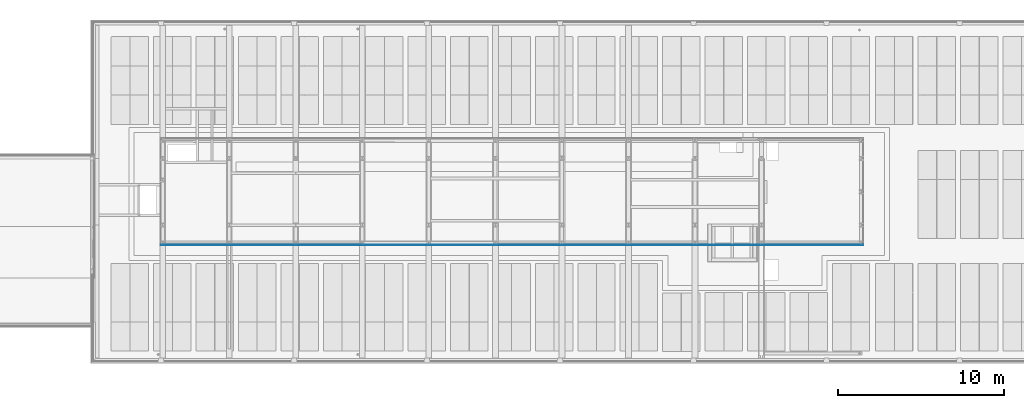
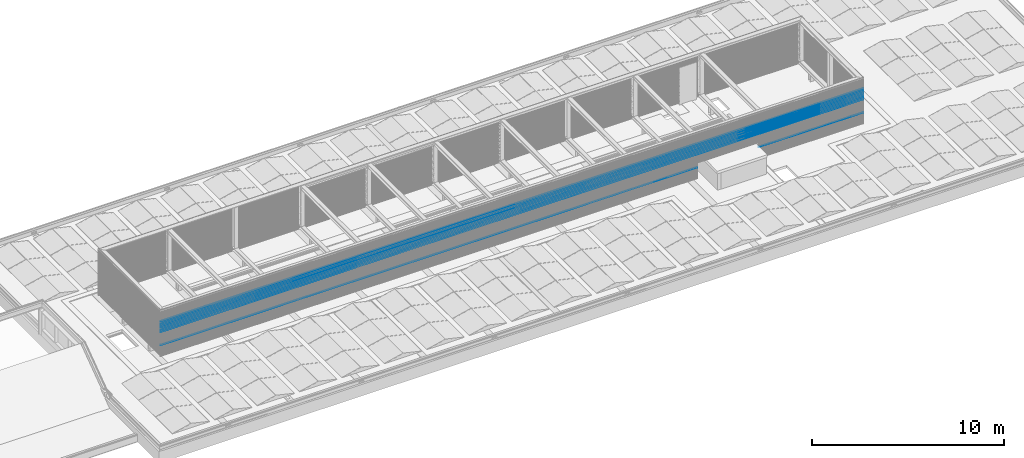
# One storey, part 32 of 63: 11 building element parts, 1 opening, 1 element without a shape of its own.
"""IFC2X3 building model written with IfcOpenShell, lengths in millimetres."""

from ifc_helpers import new_model, entity, si_unit, converted_unit, derived_unit, money_unit, direction, frame, origin_with_axes, place, context, subcontext, project, spatial, faceted_brep, material, type_object, element, aggregate, save


model = new_model("IFC2X3")

# Units and contexts
model_context = context("Model", 3, precision=0.01, world=origin_with_axes(), true_north=direction((0.0, 1.0)))
body_context = subcontext(model_context, "Body", "Model", "MODEL_VIEW")
ifc_project = project(units=[si_unit("LENGTHUNIT", "METRE", prefix="MILLI"), si_unit("AREAUNIT", "SQUARE_METRE"), si_unit("VOLUMEUNIT", "CUBIC_METRE"), converted_unit("PLANEANGLEUNIT", "DEGREE", entity("IfcPlaneAngleMeasure", 0.0174532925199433), si_unit("PLANEANGLEUNIT", "RADIAN"), dimensions=[0, 0, 0, 0, 0, 0, 0]), money_unit("EUR"), converted_unit("TIMEUNIT", "Year", entity("IfcTimeMeasure", 31557600.0), si_unit("TIMEUNIT", "SECOND"), dimensions=[0, 0, 1, 0, 0, 0, 0]), si_unit("MASSUNIT", "GRAM", prefix="KILO"), si_unit("THERMODYNAMICTEMPERATUREUNIT", "DEGREE_CELSIUS"), si_unit("LUMINOUSINTENSITYUNIT", "LUMEN"), si_unit("ENERGYUNIT", "JOULE", prefix="MEGA"), derived_unit("THERMALCONDUCTANCEUNIT", [(si_unit("POWERUNIT", "WATT"), 1), (si_unit("LENGTHUNIT", "METRE"), -1), (si_unit("THERMODYNAMICTEMPERATUREUNIT", "KELVIN"), -1)]), derived_unit("SPECIFICHEATCAPACITYUNIT", [(si_unit("ENERGYUNIT", "JOULE"), 1), (si_unit("MASSUNIT", "GRAM", prefix="KILO"), -1), (si_unit("THERMODYNAMICTEMPERATUREUNIT", "KELVIN"), -1)]), derived_unit("MASSDENSITYUNIT", [(si_unit("MASSUNIT", "GRAM", prefix="KILO"), 1), (si_unit("VOLUMEUNIT", "CUBIC_METRE"), -1)])], contexts=[model_context])

# Site, building, storey
site_placement = place(None, origin_with_axes())
site = spatial("IfcSite", under=ifc_project, at=site_placement, Name="<site naam>", CompositionType="ELEMENT")
building_placement = place(site_placement, origin_with_axes())
building = spatial("IfcBuilding", under=site, at=building_placement, Name="<Naam gebouw>", CompositionType="ELEMENT")
storey_placement = place(building_placement, frame((0.0, 0.0, 12770.0), z_axis=(0.0, 0.0, 1.0), x_axis=(1.0, 0.0, 0.0)))
storey = spatial("IfcBuildingStorey", under=building, at=storey_placement, Name="04 4e verdieping", CompositionType="ELEMENT", Elevation=12770.0)

# Wall, opening, building element parts
wall_type = type_object("IfcWallType", Name="Gevelbeplating golf 18 x 2900", PredefinedType="NOTDEFINED")
wall_placement = place(storey_placement, frame((15871.99992141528, 6781.999921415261, 299.9552842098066), z_axis=(0.0, 0.0, 1.0), x_axis=(1.0, 0.0, 0.0)))
wall = element("IfcWall", 1, at=wall_placement, inside=storey, type_object=wall_type, Name="47_Binnenwand_Gevelbeplating")
opening_placement = place(wall_placement, frame((-15871.99992141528, -6781.999921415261, -13069.95528420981), z_axis=(0.0, 0.0, 1.0), x_axis=(1.0, 0.0, 0.0)))
element("IfcOpeningElement", 2, at=opening_placement, cuts=wall, Name="47_Opening_", context=body_context, shape_type="Brep", body=[
    faceted_brep([(48150.00001112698, 6763.99976424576, 12770.0), (48150.00001112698, 6763.99976424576, 14059.65145375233), (48150.00001112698, 6818.000000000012, 14059.65145375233), (48150.00001112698, 6818.000000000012, 12770.0), (51850.00001112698, 6763.99976424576, 12770.0), (51850.00001112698, 6763.99976424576, 14059.65145375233), (51850.00001112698, 6818.000000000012, 14059.65145375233), (51850.00001112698, 6818.000000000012, 12770.0)], [[[0, 1, 2, 3]], [[0, 4, 5, 1]], [[1, 5, 6, 2]], [[3, 2, 6, 7]], [[4, 0, 3, 7]], [[5, 4, 7, 6]]]),
])
ifc_material = material(Name="gevelafwerking type 3 - Aluminium RAL1036")
building_element_part_1_placement = place(wall_placement, origin_with_axes())
building_element_part_1 = element("IfcBuildingElementPart", 3, at=building_element_part_1_placement, material=ifc_material, Name="gevelafwerking type 3 - Aluminium RAL1036", context=body_context, shape_type="Brep", body=[
    faceted_brep([(42239.00022979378, 16.99995475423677, 1520.00001788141), (16.99992737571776, 16.9999547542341, 1520.00001788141), (16.99992737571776, 17.99995713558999, 1520.00001788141), (42239.00022979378, 17.99995713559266, 1520.00001788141), (42241.22502892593, 14.77515422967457, 1530.365704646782), (14.77512824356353, 14.77515422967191, 1530.365704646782), (14.77512824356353, 15.69995368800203, 1530.365704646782), (14.54417728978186, 15.62922001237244, 1530.684488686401), (42241.45597987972, 15.6292200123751, 1530.684488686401), (42241.22502892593, 15.6999536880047, 1530.365704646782), (42247.44495090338, 8.555209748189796, 1538.951128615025), (8.5552062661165, 8.555209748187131, 1538.951128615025), (8.5552062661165, 9.39806874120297, 1538.951128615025), (8.209513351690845, 9.041540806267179, 1539.42412115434), (42247.7906438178, 9.041540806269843, 1539.42412115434), (42247.44495090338, 9.398068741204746, 1538.951128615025), (42253.74287308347, 2.25731583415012, 1547.568228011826), (2.257284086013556, 2.257315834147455, 1547.568228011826), (2.257284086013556, 3.340071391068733, 1547.568228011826), (2.188154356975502, 3.116435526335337, 1547.887674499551), (42253.81200281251, 3.116435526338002, 1547.887674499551), (42253.74287308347, 3.340071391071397, 1547.568228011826), (42256.00020723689, -4.286440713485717e-05, 1557.999988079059), (-5.006739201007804e-05, -4.286440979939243e-05, 1557.999988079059), (-5.006739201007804e-05, 0.9999571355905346, 1557.999988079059), (42256.00020723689, 0.9999571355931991, 1557.999988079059)], [[[0, 1, 2, 3]], [[4, 5, 1, 0]], [[5, 6, 2, 1]], [[2, 6, 7, 8, 9, 3]], [[0, 3, 9, 4]], [[10, 11, 5, 4]], [[12, 7, 6, 5, 11]], [[7, 12, 13, 14, 15, 8]], [[9, 8, 15, 10, 4]], [[16, 17, 11, 10]], [[18, 13, 12, 11, 17]], [[13, 18, 19, 20, 21, 14]], [[15, 14, 21, 16, 10]], [[22, 23, 17, 16]], [[24, 19, 18, 17, 23]], [[20, 19, 24, 25]], [[21, 20, 25, 22, 16]], [[25, 24, 23, 22]]]),
])
building_element_part_2_placement = place(wall_placement, origin_with_axes())
building_element_part_2 = element("IfcBuildingElementPart", 4, at=building_element_part_2_placement, material=ifc_material, Name="gevelafwerking type 3 - Aluminium RAL1036", context=body_context, shape_type="Brep", body=[
    faceted_brep([(42239.00022979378, 16.99995237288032, 1596.000001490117), (16.99992737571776, 16.99995237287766, 1596.000001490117), (16.99992737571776, 17.99995475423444, 1596.000001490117), (42239.00022979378, 17.9999547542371, 1596.000001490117), (42241.22502892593, 14.77515184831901, 1606.36568825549), (14.77512824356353, 14.77515184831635, 1606.36568825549), (14.77512824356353, 15.69995494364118, 1606.36568825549), (14.54416541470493, 15.62921763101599, 1606.684488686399), (42241.45599175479, 15.62921763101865, 1606.684488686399), (42241.22502892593, 15.69995494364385, 1606.36568825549), (42247.44495090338, 8.555207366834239, 1614.951112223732), (8.555206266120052, 8.555207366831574, 1614.951112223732), (8.555206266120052, 9.398078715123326, 1614.951112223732), (8.209501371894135, 9.041538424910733, 1615.424121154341), (42247.79065579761, 9.041538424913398, 1615.424121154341), (42247.44495090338, 9.39807871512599, 1614.951112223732), (42253.74287308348, 2.257313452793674, 1623.568211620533), (2.257284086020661, 2.257313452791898, 1623.568211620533), (2.257284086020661, 3.340080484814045, 1623.568211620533), (2.18815548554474, 3.11643314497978, 1623.887674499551), (42253.81200168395, 3.116433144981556, 1623.887674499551), (42253.74287308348, 3.34008048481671, 1623.568211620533), (42256.00021191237, -4.524576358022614e-05, 1634.000014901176), (-5.474286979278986e-05, -4.52457662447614e-05, 1634.000014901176), (-5.474286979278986e-05, 0.9999547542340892, 1634.000014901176), (42256.00021191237, 0.9999547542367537, 1634.000014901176)], [[[0, 1, 2, 3]], [[4, 5, 1, 0]], [[5, 6, 2, 1]], [[2, 6, 7, 8, 9, 3]], [[0, 3, 9, 4]], [[10, 11, 5, 4]], [[12, 7, 6, 5, 11]], [[7, 12, 13, 14, 15, 8]], [[9, 8, 15, 10, 4]], [[16, 17, 11, 10]], [[18, 13, 12, 11, 17]], [[13, 18, 19, 20, 21, 14]], [[15, 14, 21, 16, 10]], [[22, 23, 17, 16]], [[24, 19, 18, 17, 23]], [[20, 19, 24, 25]], [[21, 20, 25, 22, 16]], [[25, 24, 23, 22]]]),
])
building_element_part_3_placement = place(wall_placement, origin_with_axes())
building_element_part_3 = element("IfcBuildingElementPart", 5, at=building_element_part_3_placement, material=ifc_material, Name="gevelafwerking type 3 - Aluminium RAL1036", context=body_context, shape_type="Brep", body=[
    faceted_brep([(42239.00022979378, 16.99994999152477, 1671.999985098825), (16.99992737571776, 16.9999499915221, 1671.999985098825), (16.99992737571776, 17.99995237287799, 1671.999985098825), (42239.00022979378, 17.99995237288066, 1671.999985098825), (42241.22502892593, 14.77514946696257, 1682.365671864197), (14.77512824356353, 14.7751494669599, 1682.365671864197), (14.77512824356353, 15.69995619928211, 1682.365671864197), (14.54415353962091, 15.62921524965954, 1682.6844886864), (42241.45600362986, 15.62921524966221, 1682.6844886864), (42241.22502892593, 15.69995619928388, 1682.365671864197), (42247.44495090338, 8.555204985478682, 1690.951095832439), (8.555206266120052, 8.555204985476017, 1690.951095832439), (8.555206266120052, 9.398088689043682, 1690.951095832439), (8.20948939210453, 9.041536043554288, 1691.424121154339), (42247.79066777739, 9.041536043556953, 1691.424121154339), (42247.44495090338, 9.398088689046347, 1690.951095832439), (42253.74287308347, 2.257311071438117, 1699.56819522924), (2.257284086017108, 2.257311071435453, 1699.56819522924), (2.257284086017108, 3.340089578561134, 1699.56819522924), (2.188151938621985, 3.116430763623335, 1699.887674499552), (42253.81200523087, 3.116430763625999, 1699.887674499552), (42253.74287308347, 3.340089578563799, 1699.56819522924), (42256.00021191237, -4.762711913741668e-05, 1709.999998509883), (-5.474287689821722e-05, -4.762712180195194e-05, 1709.999998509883), (-5.474287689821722e-05, 0.9999523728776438, 1709.999998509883), (42256.00021191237, 0.9999523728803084, 1709.999998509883)], [[[0, 1, 2, 3]], [[4, 5, 1, 0]], [[5, 6, 2, 1]], [[2, 6, 7, 8, 9, 3]], [[0, 3, 9, 4]], [[10, 11, 5, 4]], [[12, 7, 6, 5, 11]], [[7, 12, 13, 14, 15, 8]], [[9, 8, 15, 10, 4]], [[16, 17, 11, 10]], [[18, 13, 12, 11, 17]], [[13, 18, 19, 20, 21, 14]], [[15, 14, 21, 16, 10]], [[22, 23, 17, 16]], [[24, 19, 18, 17, 23]], [[20, 19, 24, 25]], [[21, 20, 25, 22, 16]], [[25, 24, 23, 22]]]),
])
building_element_part_4_placement = place(wall_placement, origin_with_axes())
building_element_part_4 = element("IfcBuildingElementPart", 6, at=building_element_part_4_placement, material=ifc_material, Name="gevelafwerking type 3 - Aluminium RAL1036", context=body_context, shape_type="Brep", body=[
    faceted_brep([(42239.00022979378, 16.99994761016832, 1748.00001192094), (16.99992737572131, 16.99994761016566, 1748.00001192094), (16.99992737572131, 17.99994999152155, 1748.00001192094), (42239.00022979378, 17.99994999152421, 1748.00001192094), (42241.22502892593, 14.77514708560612, 1758.365698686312), (14.77512824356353, 14.77514708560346, 1758.365698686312), (14.77512824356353, 15.69994786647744, 1758.365698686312), (14.54417136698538, 15.62921286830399, 1758.6844886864), (42241.4559858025, 15.62921286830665, 1758.6844886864), (42241.22502892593, 15.6999478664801, 1758.365698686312), (42247.44499411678, 8.555202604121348, 1766.951122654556), (8.555163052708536, 8.555202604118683, 1766.951122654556), (8.555163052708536, 9.398066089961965, 1766.951122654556), (8.209468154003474, 9.04153366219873, 1767.42412115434), (42247.79068901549, 9.041533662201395, 1767.42412115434), (42247.44499411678, 9.398066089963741, 1766.951122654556), (42253.74287308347, 2.257308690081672, 1775.568222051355), (2.257284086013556, 2.257308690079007, 1775.568222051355), (2.257284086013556, 3.340068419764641, 1775.568222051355), (2.188153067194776, 3.116428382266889, 1775.88767449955), (42253.8120041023, 3.116428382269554, 1775.88767449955), (42253.74287308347, 3.340068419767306, 1775.568222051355), (42256.00020723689, -5.000847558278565e-05, 1785.99998211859), (-5.006739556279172e-05, -5.000847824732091e-05, 1785.99998211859), (-5.006739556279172e-05, 0.9999499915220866, 1785.99998211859), (42256.00020723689, 0.9999499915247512, 1785.99998211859)], [[[0, 1, 2, 3]], [[4, 5, 1, 0]], [[5, 6, 2, 1]], [[2, 6, 7, 8, 9, 3]], [[0, 3, 9, 4]], [[10, 11, 5, 4]], [[12, 7, 6, 5, 11]], [[7, 12, 13, 14, 15, 8]], [[9, 8, 15, 10, 4]], [[16, 17, 11, 10]], [[18, 13, 12, 11, 17]], [[13, 18, 19, 20, 21, 14]], [[15, 14, 21, 16, 10]], [[22, 23, 17, 16]], [[24, 19, 18, 17, 23]], [[20, 19, 24, 25]], [[21, 20, 25, 22, 16]], [[25, 24, 23, 22]]]),
])
building_element_part_5_placement = place(wall_placement, origin_with_axes())
building_element_part_5 = element("IfcBuildingElementPart", 7, at=building_element_part_5_placement, material=ifc_material, Name="gevelafwerking type 3 - Aluminium RAL1036", context=body_context, shape_type="Brep", body=[
    faceted_brep([(42239.00022979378, 16.99994522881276, 1899.999979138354), (16.99992737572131, 16.9999452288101, 1899.999979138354), (16.99992737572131, 17.99994761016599, 1899.999979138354), (42239.00022979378, 17.99994761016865, 1899.999979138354), (42241.22502892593, 14.77514470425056, 1910.365665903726), (14.77512824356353, 14.7751447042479, 1910.365665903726), (14.77512824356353, 15.69995275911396, 1910.365665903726), (14.54414761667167, 15.62921048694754, 1910.6844886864), (42241.45600955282, 15.62921048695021, 1910.6844886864), (42241.22502892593, 15.69995275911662, 1910.365665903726), (42247.44499411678, 8.55520022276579, 1918.951089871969), (8.555163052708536, 8.555200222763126, 1918.951089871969), (8.555163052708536, 9.398088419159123, 1918.951089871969), (8.20944419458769, 9.041531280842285, 1919.424121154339), (42247.79071297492, 9.04153128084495, 1919.424121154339), (42247.44499411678, 9.398088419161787, 1918.951089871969), (42253.74287308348, 2.257306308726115, 1927.56818926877), (2.257284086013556, 2.25730630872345, 1927.56818926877), (2.257284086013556, 3.3400889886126, 1927.56818926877), (2.188150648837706, 3.116426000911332, 1927.887674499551), (42253.81200652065, 3.116426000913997, 1927.887674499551), (42253.74287308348, 3.340088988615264, 1927.56818926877), (42256.00021191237, -5.23898311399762e-05, 1937.999992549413), (-5.474287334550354e-05, -5.238983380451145e-05, 1937.999992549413), (-5.474287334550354e-05, 0.9999476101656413, 1937.999992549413), (42256.00021191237, 0.9999476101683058, 1937.999992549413)], [[[0, 1, 2, 3]], [[4, 5, 1, 0]], [[5, 6, 2, 1]], [[2, 6, 7, 8, 9, 3]], [[0, 3, 9, 4]], [[10, 11, 5, 4]], [[12, 7, 6, 5, 11]], [[7, 12, 13, 14, 15, 8]], [[9, 8, 15, 10, 4]], [[16, 17, 11, 10]], [[18, 13, 12, 11, 17]], [[13, 18, 19, 20, 21, 14]], [[15, 14, 21, 16, 10]], [[22, 23, 17, 16]], [[24, 19, 18, 17, 23]], [[20, 19, 24, 25]], [[21, 20, 25, 22, 16]], [[25, 24, 23, 22]]]),
])
building_element_part_6_placement = place(wall_placement, origin_with_axes())
building_element_part_6 = element("IfcBuildingElementPart", 8, at=building_element_part_6_placement, material=ifc_material, Name="gevelafwerking type 3 - Aluminium RAL1036", context=body_context, shape_type="Brep", body=[
    faceted_brep([(42239.00022979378, 16.99994284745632, 1976.00000596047), (16.99992737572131, 16.99994284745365, 1976.00000596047), (16.99992737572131, 17.99994522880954, 1976.00000596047), (42239.00022979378, 17.99994522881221, 1976.00000596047), (42241.22502892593, 14.77514232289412, 1986.365692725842), (14.77512824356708, 14.77514232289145, 1986.365692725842), (14.77512824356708, 15.69994442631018, 1986.365692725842), (14.54416704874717, 15.62920810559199, 1986.6844886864), (42241.45599012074, 15.62920810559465, 1986.6844886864), (42241.22502892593, 15.69994442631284, 1986.365692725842), (42247.44499411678, 8.555197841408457, 1994.951116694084), (8.55516305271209, 8.555197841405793, 1994.951116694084), (8.55516305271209, 9.398065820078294, 1994.951116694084), (8.209463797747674, 9.041528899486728, 1995.42412115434), (42247.79069337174, 9.041528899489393, 1995.42412115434), (42247.44499411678, 9.398065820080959, 1994.951116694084), (42253.74287308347, 2.257303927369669, 2003.568216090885), (2.257284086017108, 2.257303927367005, 2003.568216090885), (2.257284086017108, 3.340067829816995, 2003.568216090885), (2.188156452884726, 3.116423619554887, 2003.88767449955), (42253.81200071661, 3.116423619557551, 2003.88767449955), (42253.74287308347, 3.34006782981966, 2003.568216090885), (42256.00021191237, -5.477118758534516e-05, 2014.000019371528), (-5.474286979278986e-05, -5.477119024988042e-05, 2014.000019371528), (-5.474286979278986e-05, 0.9999452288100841, 2014.000019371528), (42256.00021191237, 0.9999452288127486, 2014.000019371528)], [[[0, 1, 2, 3]], [[4, 5, 1, 0]], [[5, 6, 2, 1]], [[2, 6, 7, 8, 9, 3]], [[0, 3, 9, 4]], [[10, 11, 5, 4]], [[12, 7, 6, 5, 11]], [[7, 12, 13, 14, 15, 8]], [[9, 8, 15, 10, 4]], [[16, 17, 11, 10]], [[18, 13, 12, 11, 17]], [[13, 18, 19, 20, 21, 14]], [[15, 14, 21, 16, 10]], [[22, 23, 17, 16]], [[24, 19, 18, 17, 23]], [[20, 19, 24, 25]], [[21, 20, 25, 22, 16]], [[25, 24, 23, 22]]]),
])
building_element_part_7_placement = place(wall_placement, origin_with_axes())
building_element_part_7 = element("IfcBuildingElementPart", 9, at=building_element_part_7_placement, material=ifc_material, Name="gevelafwerking type 3 - Aluminium RAL1036", context=body_context, shape_type="Brep", body=[
    faceted_brep([(42239.00022979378, 16.99994522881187, 1823.999995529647), (16.99992737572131, 16.9999452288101, 1823.999995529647), (16.99992737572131, 17.99994761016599, 1823.999995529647), (42239.00022979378, 17.99994761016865, 1823.999995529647), (42241.22502892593, 14.77514470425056, 1834.365682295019), (14.77512824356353, 14.7751447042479, 1834.365682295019), (14.77512824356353, 15.69994912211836, 1834.365682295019), (14.54415949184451, 15.62921048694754, 1834.684488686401), (42241.45599767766, 15.62921048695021, 1834.684488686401), (42241.22502892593, 15.69994912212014, 1834.365682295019), (42247.44499411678, 8.55520022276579, 1842.951106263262), (8.55516305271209, 8.555200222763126, 1842.951106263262), (8.55516305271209, 9.398076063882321, 1842.951106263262), (8.20945617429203, 9.041531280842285, 1843.424121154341), (42247.7907009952, 9.04153128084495, 1843.424121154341), (42247.44499411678, 9.398076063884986, 1842.951106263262), (42253.74287308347, 2.257306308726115, 1851.568205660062), (2.257284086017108, 2.25730630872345, 1851.568205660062), (2.257284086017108, 3.34007751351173, 1851.568205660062), (2.188154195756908, 3.116426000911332, 1851.887674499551), (42253.81200297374, 3.116426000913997, 1851.887674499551), (42253.74287308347, 3.340077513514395, 1851.568205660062), (42256.00021191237, -5.23898311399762e-05, 1862.000008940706), (-5.474286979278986e-05, -5.238983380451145e-05, 1862.000008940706), (-5.474286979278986e-05, 0.9999476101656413, 1862.000008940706), (42256.00021191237, 0.9999476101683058, 1862.000008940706)], [[[0, 1, 2, 3]], [[4, 5, 1, 0]], [[5, 6, 2, 1]], [[2, 6, 7, 8, 9, 3]], [[0, 3, 9, 4]], [[10, 11, 5, 4]], [[12, 7, 6, 5, 11]], [[7, 12, 13, 14, 15, 8]], [[9, 8, 15, 10, 4]], [[16, 17, 11, 10]], [[18, 13, 12, 11, 17]], [[13, 18, 19, 20, 21, 14]], [[15, 14, 21, 16, 10]], [[22, 23, 17, 16]], [[24, 19, 18, 17, 23]], [[20, 19, 24, 25]], [[21, 20, 25, 22, 16]], [[25, 24, 23, 22]]]),
])
building_element_part_8_placement = place(wall_placement, origin_with_axes())
building_element_part_8 = element("IfcBuildingElementPart", 10, at=building_element_part_8_placement, material=ifc_material, Name="gevelafwerking type 3 - Aluminium RAL1036", context=body_context, shape_type="Brep", body=[
    faceted_brep([(42239.00022979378, 16.99994046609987, 2051.999989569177), (16.99992737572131, 16.99994046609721, 2051.999989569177), (16.99992737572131, 17.99994284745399, 2051.999989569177), (42239.00022979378, 17.99994284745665, 2051.999989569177), (42241.22502892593, 14.77513994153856, 2062.365676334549), (14.77512824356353, 14.7751399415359, 2062.365676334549), (14.77512824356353, 15.69994568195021, 2062.365676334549), (14.54415517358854, 15.62920572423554, 2062.684488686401), (42241.4560019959, 15.6292057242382, 2062.684488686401), (42241.22502892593, 15.69994568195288, 2062.365676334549), (42247.44499411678, 8.5551954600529, 2070.951100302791), (8.55516305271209, 8.555195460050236, 2070.951100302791), (8.55516305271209, 9.398075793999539, 2070.951100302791), (8.209456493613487, 9.041526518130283, 2071.42412115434), (42247.79070067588, 9.041526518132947, 2071.42412115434), (42247.44499411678, 9.398075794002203, 2070.951100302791), (42253.7428684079, 2.257301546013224, 2079.568199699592), (2.25728876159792, 2.257301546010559, 2079.568199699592), (2.25728876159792, 3.340076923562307, 2079.568199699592), (2.188160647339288, 3.116421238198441, 2079.88767449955), (42253.81199652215, 3.116421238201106, 2079.88767449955), (42253.7428684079, 3.340076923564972, 2079.568199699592), (42256.00025512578, -5.715254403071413e-05, 2090.000002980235), (-9.795628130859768e-05, -5.715254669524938e-05, 2090.000002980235), (-9.795628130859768e-05, 0.9999428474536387, 2090.000002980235), (42256.00025512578, 0.9999428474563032, 2090.000002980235)], [[[0, 1, 2, 3]], [[4, 5, 1, 0]], [[5, 6, 2, 1]], [[2, 6, 7, 8, 9, 3]], [[0, 3, 9, 4]], [[10, 11, 5, 4]], [[12, 7, 6, 5, 11]], [[7, 12, 13, 14, 15, 8]], [[9, 8, 15, 10, 4]], [[16, 17, 11, 10]], [[18, 13, 12, 11, 17]], [[13, 18, 19, 20, 21, 14]], [[15, 14, 21, 16, 10]], [[22, 23, 17, 16]], [[24, 19, 18, 17, 23]], [[20, 19, 24, 25]], [[21, 20, 25, 22, 16]], [[25, 24, 23, 22]]]),
])
building_element_part_9_placement = place(wall_placement, origin_with_axes())
building_element_part_9 = element("IfcBuildingElementPart", 11, at=building_element_part_9_placement, material=ifc_material, Name="gevelafwerking type 3 - Aluminium RAL1036", context=body_context, shape_type="Brep", body=[
    faceted_brep([(42239.00022979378, 16.99993808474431, 2128.000016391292), (16.99992737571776, 16.99993808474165, 2128.000016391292), (16.99992737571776, 17.99994046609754, 2128.000016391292), (42239.00022979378, 17.99994046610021, 2128.000016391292), (42241.22502892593, 14.77513756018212, 2138.365703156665), (14.77512824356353, 14.77513756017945, 2138.365703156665), (14.77512824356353, 15.69993734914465, 2138.365703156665), (14.54417460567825, 15.62920334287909, 2138.684488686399), (42241.45598256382, 15.62920334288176, 2138.684488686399), (42241.22502892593, 15.69993734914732, 2138.365703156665), (42247.44499411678, 8.555193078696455, 2146.951127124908), (8.555163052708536, 8.55519307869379, 2146.951127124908), (8.555163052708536, 9.398053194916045, 2146.951127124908), (8.209471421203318, 9.041524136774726, 2147.424121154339), (42247.79068574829, 9.04152413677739, 2147.424121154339), (42247.44499411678, 9.39805319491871, 2146.951127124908), (42253.74287308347, 2.257299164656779, 2155.568226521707), (2.257284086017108, 2.257299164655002, 2155.568226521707), (2.257284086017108, 3.340055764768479, 2155.568226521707), (2.188157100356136, 3.116418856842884, 2155.887674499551), (42253.81200006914, 3.116418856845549, 2155.887674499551), (42253.74287308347, 3.340055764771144, 2155.568226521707), (42256.00025512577, -5.953389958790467e-05, 2165.999986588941), (-9.795628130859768e-05, -5.953390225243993e-05, 2165.999986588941), (-9.795628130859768e-05, 0.9999404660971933, 2165.999986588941), (42256.00025512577, 0.9999404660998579, 2165.999986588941)], [[[0, 1, 2, 3]], [[4, 5, 1, 0]], [[5, 6, 2, 1]], [[2, 6, 7, 8, 9, 3]], [[0, 3, 9, 4]], [[10, 11, 5, 4]], [[12, 7, 6, 5, 11]], [[7, 12, 13, 14, 15, 8]], [[9, 8, 15, 10, 4]], [[16, 17, 11, 10]], [[18, 13, 12, 11, 17]], [[13, 18, 19, 20, 21, 14]], [[15, 14, 21, 16, 10]], [[22, 23, 17, 16]], [[24, 19, 18, 17, 23]], [[20, 19, 24, 25]], [[21, 20, 25, 22, 16]], [[25, 24, 23, 22]]]),
])
building_element_part_10_placement = place(wall_placement, origin_with_axes())
building_element_part_10 = element("IfcBuildingElementPart", 12, at=building_element_part_10_placement, material=ifc_material, Name="gevelafwerking type 3 - Aluminium RAL1036", context=body_context, shape_type="Brep", body=[
    faceted_brep([(33241.00000828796, 15.62924382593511, 694.6844886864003), (33241.00000828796, 17.99998094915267, 683.9999821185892), (16.99997058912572, 17.9999809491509, 683.9999821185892), (14.77517145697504, 15.69998543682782, 694.365668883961), (14.54419298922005, 15.62924382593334, 694.6844886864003), (33241.00000828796, 16.99997856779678, 683.9999821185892), (33241.00000828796, 9.041564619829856, 703.4241211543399), (33241.00000828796, 3.116459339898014, 711.8876744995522), (33241.00000828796, 0.9999809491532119, 721.9999955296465), (33241.00000828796, -1.905084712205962e-05, 721.9999955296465), (33241.00000828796, 2.257339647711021, 711.568192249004), (33241.00000828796, 8.555233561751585, 702.9510928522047), (33241.00000828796, 14.77517804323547, 694.365668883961), (16.99997058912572, 16.999978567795, 683.9999821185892), (14.77517145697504, 14.77517804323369, 694.365668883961), (8.555206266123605, 9.398119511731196, 702.9510928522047), (8.555206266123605, 8.555233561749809, 702.9510928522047), (8.209494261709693, 9.04156461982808, 703.4241211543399), (2.257331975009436, 3.340120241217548, 711.568192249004), (2.188202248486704, 3.116459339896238, 711.8876744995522), (-5.474286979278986e-05, 0.9999809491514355, 721.9999955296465), (-5.474286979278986e-05, -1.905084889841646e-05, 721.9999955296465), (2.257331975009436, 2.257339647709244, 711.568192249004)], [[[0, 1, 2, 3, 4]], [[5, 1, 0, 6, 7, 8, 9, 10, 11, 12]], [[1, 5, 13, 2]], [[14, 3, 2, 13]], [[15, 4, 3, 14, 16]], [[6, 0, 4, 15, 17]], [[7, 6, 17, 18, 19]], [[8, 7, 19, 20]], [[9, 8, 20, 21]], [[10, 9, 21, 22]], [[11, 10, 22, 16]], [[12, 11, 16, 14]], [[5, 12, 14, 13]], [[18, 17, 15, 16, 22]], [[20, 19, 18, 22, 21]]]),
    faceted_brep([(35508.99994541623, 15.629243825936, 694.6844886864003), (35508.99994541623, 17.99998094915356, 683.9999821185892), (34382.99997685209, 17.99998094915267, 683.9999821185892), (34382.99997685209, 15.62924382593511, 694.6844886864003), (35508.99994541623, 16.99997856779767, 683.9999821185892), (35508.99994541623, 9.041564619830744, 703.4241211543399), (35508.99994541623, 3.116459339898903, 711.8876744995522), (35508.99994541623, 0.9999809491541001, 721.9999955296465), (35508.99994541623, -1.90508462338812e-05, 721.9999955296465), (35508.99994541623, 2.257339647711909, 711.568192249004), (35508.99994541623, 8.555233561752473, 702.9510928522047), (35508.99994541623, 14.77517804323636, 694.365668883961), (34382.99997685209, 16.99997856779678, 683.9999821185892), (34382.99997685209, 14.77517804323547, 694.365668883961), (34382.99997685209, 8.555233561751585, 702.9510928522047), (34382.99997685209, 2.257339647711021, 711.568192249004), (34382.99997685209, -1.905084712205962e-05, 721.9999955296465), (34382.99997685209, 0.9999809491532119, 721.9999955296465), (34382.99997685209, 3.116459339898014, 711.8876744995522), (34382.99997685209, 9.041564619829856, 703.4241211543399)], [[[0, 1, 2, 3]], [[4, 1, 0, 5, 6, 7, 8, 9, 10, 11]], [[1, 4, 12, 2]], [[3, 2, 12, 13, 14, 15, 16, 17, 18, 19]], [[5, 0, 3, 19]], [[6, 5, 19, 18]], [[7, 6, 18, 17]], [[8, 7, 17, 16]], [[9, 8, 16, 15]], [[10, 9, 15, 14]], [[11, 10, 14, 13]], [[4, 11, 13, 12]]]),
    faceted_brep([(33249.00000828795, 16.99997856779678, 683.9999821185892), (33249.00000828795, 17.99998094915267, 683.9999821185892), (34374.99997685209, 17.99998094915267, 683.9999821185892), (34374.99997685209, 16.99997856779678, 683.9999821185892), (33249.00000828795, 15.62924382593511, 694.6844886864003), (33249.00000828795, 14.77517804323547, 694.365668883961), (33249.00000828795, 8.555233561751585, 702.9510928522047), (33249.00000828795, 2.257339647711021, 711.568192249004), (33249.00000828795, -1.905084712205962e-05, 721.9999955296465), (33249.00000828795, 0.9999809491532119, 721.9999955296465), (33249.00000828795, 3.116459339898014, 711.8876744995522), (33249.00000828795, 9.041564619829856, 703.4241211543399), (34374.99997685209, 15.62924382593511, 694.6844886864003), (34374.99997685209, 9.041564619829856, 703.4241211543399), (34374.99997685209, 3.116459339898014, 711.8876744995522), (34374.99997685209, 0.9999809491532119, 721.9999955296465), (34374.99997685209, -1.905084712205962e-05, 721.9999955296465), (34374.99997685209, 2.257339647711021, 711.568192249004), (34374.99997685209, 8.555233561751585, 702.9510928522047), (34374.99997685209, 14.77517804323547, 694.365668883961)], [[[0, 1, 2, 3]], [[4, 1, 0, 5, 6, 7, 8, 9, 10, 11]], [[1, 4, 12, 2]], [[3, 2, 12, 13, 14, 15, 16, 17, 18, 19]], [[5, 0, 3, 19]], [[6, 5, 19, 18]], [[7, 6, 18, 17]], [[8, 7, 17, 16]], [[9, 8, 16, 15]], [[10, 9, 15, 14]], [[11, 10, 14, 13]], [[4, 11, 13, 12]]]),
    faceted_brep([(35516.99994541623, 16.99997856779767, 683.9999821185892), (35516.99994541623, 17.99998094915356, 683.9999821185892), (42239.00018658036, 17.99998094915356, 683.9999821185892), (42239.00018658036, 16.99997856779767, 683.9999821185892), (35516.99994541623, 15.629243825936, 694.6844886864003), (35516.99994541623, 14.77517804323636, 694.365668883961), (35516.99994541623, 8.555233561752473, 702.9510928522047), (35516.99994541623, 2.257339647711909, 711.568192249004), (35516.99994541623, -1.90508462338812e-05, 721.9999955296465), (35516.99994541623, 0.9999809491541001, 721.9999955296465), (35516.99994541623, 3.116459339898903, 711.8876744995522), (35516.99994541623, 9.041564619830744, 703.4241211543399), (42241.45596418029, 15.629243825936, 694.6844886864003), (42241.22498571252, 15.69998543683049, 694.365668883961), (42241.22498571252, 14.77517804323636, 694.365668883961), (42247.44495090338, 8.555233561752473, 702.9510928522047), (42253.74282519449, 2.257339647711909, 711.568192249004), (42256.00021191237, -1.90508462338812e-05, 721.9999955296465), (42256.00021191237, 0.9999809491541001, 721.9999955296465), (42253.811954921, 3.116459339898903, 711.8876744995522), (42253.74282519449, 3.340120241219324, 711.568192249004), (42247.79066290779, 9.041564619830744, 703.4241211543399), (42247.44495090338, 9.39811951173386, 702.9510928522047)], [[[0, 1, 2, 3]], [[4, 1, 0, 5, 6, 7, 8, 9, 10, 11]], [[1, 4, 12, 13, 2]], [[3, 2, 13, 14]], [[5, 0, 3, 14]], [[6, 5, 14, 15]], [[7, 6, 15, 16]], [[8, 7, 16, 17]], [[9, 8, 17, 18]], [[10, 9, 18, 19]], [[11, 10, 19, 20, 21]], [[4, 11, 21, 22, 12]], [[13, 12, 22, 15, 14]], [[22, 21, 20, 16, 15]], [[20, 19, 18, 17, 16]]]),
])
building_element_part_11_placement = place(wall_placement, origin_with_axes())
building_element_part_11 = element("IfcBuildingElementPart", 13, at=building_element_part_11_placement, material=ifc_material, Name="gevelafwerking type 3 - Aluminium RAL1036", context=body_context, shape_type="Brep", body=[
    faceted_brep([(42239.00022979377, 16.99993570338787, 2203.999999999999), (16.99992737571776, 16.9999357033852, 2203.999999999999), (16.99992737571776, 17.9999380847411, 2203.999999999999), (42239.00022979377, 17.99993808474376, 2203.999999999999), (42241.22502892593, 14.77513517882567, 2214.365686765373), (14.77512824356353, 14.77513517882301, 2214.365686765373), (14.77512824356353, 15.69993860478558, 2214.365686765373), (14.54416273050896, 15.62920096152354, 2214.6844886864), (42241.45599443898, 15.6292009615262, 2214.6844886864), (42241.22502892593, 15.69993860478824, 2214.365686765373), (42247.44499411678, 8.555190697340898, 2222.951110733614), (8.55516305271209, 8.555190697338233, 2222.951110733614), (8.55516305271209, 9.39806316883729, 2222.951110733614), (8.209464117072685, 9.04152175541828, 2223.424121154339), (42247.79069305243, 9.041521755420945, 2223.424121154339), (42247.44499411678, 9.398063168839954, 2222.951110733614), (42253.7428684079, 2.257296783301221, 2231.568210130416), (2.257288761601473, 2.257296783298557, 2231.568210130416), (2.257288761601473, 3.340064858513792, 2231.568210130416), (2.18816758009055, 3.116416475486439, 2231.887674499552), (42253.81198958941, 3.116416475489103, 2231.887674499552), (42253.7428684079, 3.340064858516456, 2231.568210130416), (42256.00025045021, -6.191525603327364e-05, 2242.000013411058), (-9.328071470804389e-05, -6.19152586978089e-05, 2242.000013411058), (-9.328071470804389e-05, 0.9999380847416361, 2242.000013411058), (42256.00025045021, 0.9999380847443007, 2242.000013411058)], [[[0, 1, 2, 3]], [[4, 5, 1, 0]], [[5, 6, 2, 1]], [[2, 6, 7, 8, 9, 3]], [[0, 3, 9, 4]], [[10, 11, 5, 4]], [[12, 7, 6, 5, 11]], [[7, 12, 13, 14, 15, 8]], [[9, 8, 15, 10, 4]], [[16, 17, 11, 10]], [[18, 13, 12, 11, 17]], [[13, 18, 19, 20, 21, 14]], [[15, 14, 21, 16, 10]], [[22, 23, 17, 16]], [[24, 19, 18, 17, 23]], [[20, 19, 24, 25]], [[21, 20, 25, 22, 16]], [[25, 24, 23, 22]]]),
])
aggregate(wall, [building_element_part_1, building_element_part_2, building_element_part_3, building_element_part_4, building_element_part_5, building_element_part_6, building_element_part_7, building_element_part_8, building_element_part_9, building_element_part_10, building_element_part_11])

save(model, "model.ifc")
